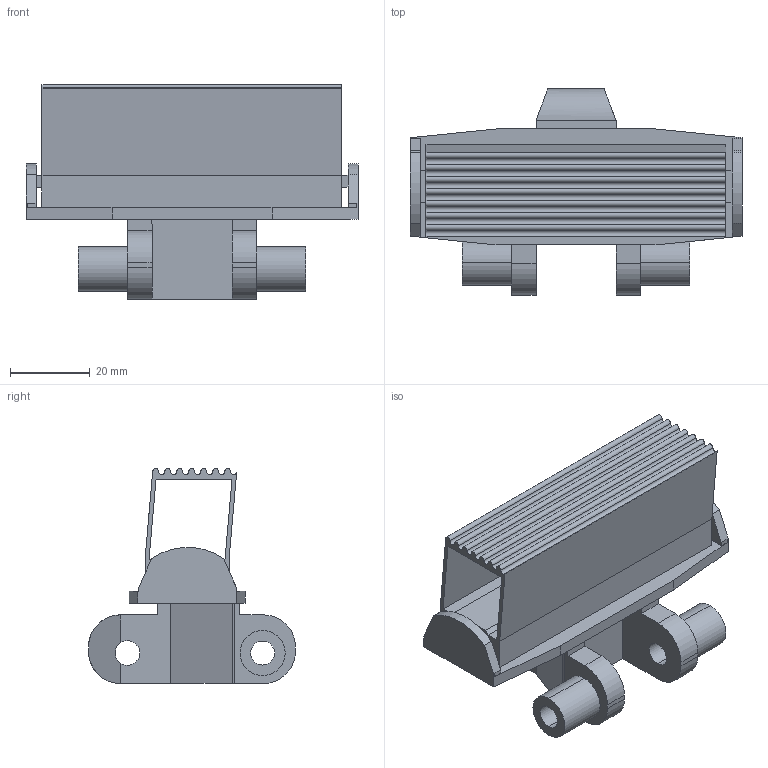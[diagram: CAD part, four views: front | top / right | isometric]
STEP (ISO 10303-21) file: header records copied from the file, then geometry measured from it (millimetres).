
FILE_DESCRIPTION (( 'STEP AP214' ), '1' );
FILE_NAME ('FMWT 5C.step', '2017-04-04T13:35:23', ( '' ), ( '' ), 'SwSTEP 2.0', 'SolidWorks 2015', '' );
FILE_SCHEMA (( 'AUTOMOTIVE_DESIGN' ));
Length unit declared in the file: millimetre
Products named in the file (1): FMWT 5C
Bounding box: 83 x 51.7 x 53.75 mm (x, y, z)
Volume: 43874.3 mm3; surface area: 24055.1 mm2
Topology: 1 solids, 1 shells, 101 faces, 287 edges, 190 vertices
Faces by surface type: plane 65, cylinder 36
Entity records: 3645 total; most frequent: CARTESIAN_POINT 597, ORIENTED_EDGE 574, DIRECTION 555, EDGE_CURVE 287, VECTOR 211, LINE 211, VERTEX_POINT 190, AXIS2_PLACEMENT_3D 172
